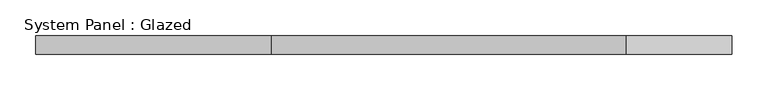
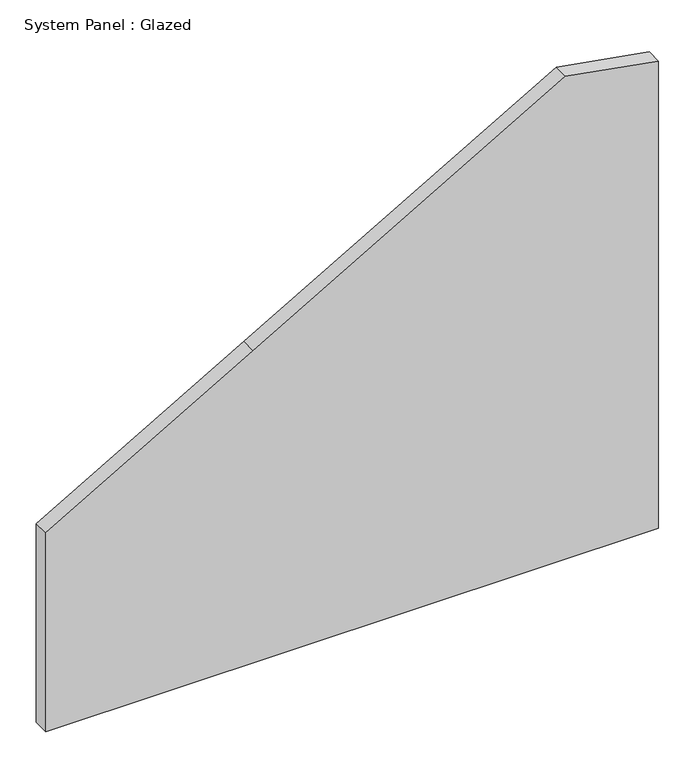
"""IFC4 building model written with IfcOpenShell, lengths in millimetres: plate geometry, System Panel : Glazed."""

from ifc_helpers import new_model, si_unit, frame, origin, place, context, project, spatial, polyline, outline, extrude, source, transform, mapped, element, save


def system_panel_glazed_27f84256(model_context):
    return source(origin(), model_context, "Body", "SweptSolid", [
        extrude(outline(polyline([(0.0, -485.775), (0.0, 485.775), (577.85, 485.775), (782.7163272, 485.775), (808.696059, 338.4366197), (522.8573869, -156.6504831), (332.8372584, -485.775), (0.0, -485.775)])), frame((0.0, -44.45, 0.0), z_axis=(0.0, 1.0, 0.0), x_axis=(0.0, 0.0, 1.0)), (0.0, 0.0, 1.0), 25.4),
    ])


if __name__ == "__main__":
    model = new_model("IFC4")
    model_context = context("Model", 3, world=origin())
    ifc_project = project(units=[si_unit("LENGTHUNIT", "METRE", prefix="MILLI")], contexts=[model_context])
    site = spatial("IfcSite", under=ifc_project)
    building = spatial("IfcBuilding", under=site)
    placement = place(None, origin())
    system_panel_glazed_shape = system_panel_glazed_27f84256(model_context)
    element("IfcPlate", 1, ObjectType="System Panel : Glazed", at=placement, inside=building, context=model_context, shape_type="MappedRepresentation", body=[
        mapped(system_panel_glazed_shape, transform((0.0, 0.0, 0.0), x_axis=(1.0, 0.0, 0.0), y_axis=(0.0, 1.0, 0.0), z_axis=(0.0, 0.0, 1.0))),
    ])
    save(model, "model.ifc")
